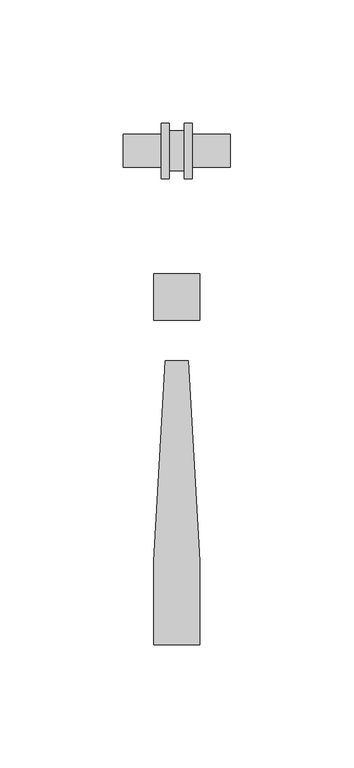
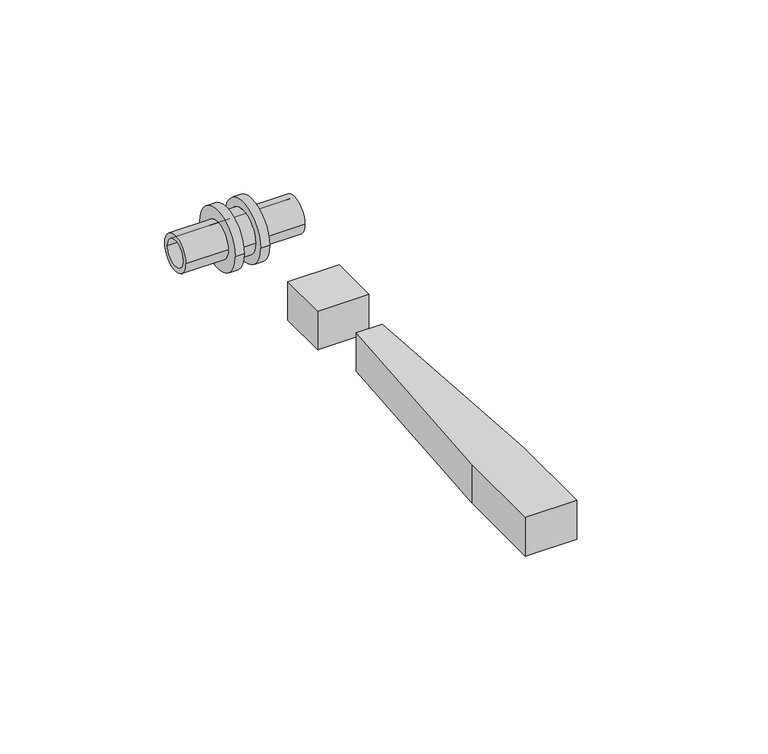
"""IFC4 building model written with IfcOpenShell, lengths in millimetres: pipe fitting geometry, RAUTITAN_Union_LX : RTI LX U DN."""

import ifcopenshell
import ifcopenshell.guid

model = None  # the IFC model being written
_history = None  # IfcOwnerHistory: only IFC2X3 demands one
_inside = {}  # id of a spatial element -> (the spatial element, [elements in it])
_under = {}  # id of a project, library or spatial element -> (it, [spatial elements below it])
_declared = {}  # id of a project -> (the project, [libraries it declares])
_typed = {}  # id of a type object -> (the type object, [elements of that type])
_made_of = {}  # id of a material, layer set ... -> (it, [elements and type objects made of it])


def new_model(schema):
    """Start an empty IFC model of exactly this schema.

    Asked for "IFC4X3", IfcOpenShell would pick the latest addendum, in which some entities
    have other attributes; the version numbers below select the first issue.
    IFC2X3 requires an IfcOwnerHistory on every rooted entity: one is made here for all.
    """
    global model, _history
    if schema == "IFC4X3":
        model = ifcopenshell.file(schema_version=(4, 3, 0, 0))
    else:
        model = ifcopenshell.file(schema=schema)
    _inside.clear()
    _under.clear()
    _declared.clear()
    _typed.clear()
    _made_of.clear()
    _history = None
    if model.schema == "IFC2X3":
        org = make("IfcOrganization", Name="unknown")
        user = make(
            "IfcPersonAndOrganization",
            ThePerson=make("IfcPerson", FamilyName="unknown"),
            TheOrganization=org,
        )
        app = make(
            "IfcApplication",
            ApplicationDeveloper=org,
            Version="unknown",
            ApplicationFullName="unknown",
            ApplicationIdentifier="unknown",
        )
        _history = make(
            "IfcOwnerHistory",
            OwningUser=user,
            OwningApplication=app,
            ChangeAction="ADDED",
            CreationDate=0,
        )
    return model


def make(cls, **values):
    """One entity of the class cls with the attributes given. An attribute that is None is left unset."""
    return model.create_entity(
        cls, **{name: value for name, value in values.items() if value is not None}
    )


def rooted(cls, **values):
    """An entity with a GlobalId (a new one), such as an element, a storey or a relation."""
    return make(cls, GlobalId=ifcopenshell.guid.new(), OwnerHistory=_history, **values)


def si_unit(unit_type, name, prefix=None):
    """IfcSIUnit, for example si_unit("LENGTHUNIT", "METRE", prefix="MILLI")."""
    return make("IfcSIUnit", UnitType=unit_type, Prefix=prefix, Name=name)


def assignment(units):
    """IfcUnitAssignment: the units of a project."""
    return None if units is None else make("IfcUnitAssignment", Units=units)


def point(xyz):
    """IfcCartesianPoint."""
    return None if xyz is None else make("IfcCartesianPoint", Coordinates=xyz)


def direction(xyz):
    """IfcDirection."""
    return None if xyz is None else make("IfcDirection", DirectionRatios=xyz)


def frame(location, z_axis=None, x_axis=None):
    """IfcAxis2Placement3D, a coordinate frame: its origin and axes. An axis left out is left unset."""
    return make(
        "IfcAxis2Placement3D",
        Location=point(location),
        Axis=direction(z_axis),
        RefDirection=direction(x_axis),
    )


def origin():
    """The frame at (0, 0, 0) with its axes left unset."""
    return frame((0.0, 0.0, 0.0))


def origin_with_axes():
    """The frame at (0, 0, 0) with the z axis (0, 0, 1) and the x axis (1, 0, 0) written out."""
    return frame((0.0, 0.0, 0.0), z_axis=(0.0, 0.0, 1.0), x_axis=(1.0, 0.0, 0.0))


def place(relative_to, where):
    """IfcLocalPlacement: puts the frame where relative to a parent placement (None: the world)."""
    return make(
        "IfcLocalPlacement", PlacementRelTo=relative_to, RelativePlacement=where
    )


def context(
    kind, dimensions, precision=None, world=None, true_north=None, identifier=None
):
    """IfcGeometricRepresentationContext, for example the 3D "Model" context."""
    return make(
        "IfcGeometricRepresentationContext",
        ContextIdentifier=identifier,
        ContextType=kind,
        CoordinateSpaceDimension=dimensions,
        Precision=precision,
        WorldCoordinateSystem=world,
        TrueNorth=true_north,
    )


def project(units=None, contexts=None):
    """IfcProject with its units and contexts."""
    return rooted(
        "IfcProject",
        Name="project",
        RepresentationContexts=contexts,
        UnitsInContext=assignment(units),
    )


def spatial(cls, under=None, at=None, **own):
    """A site, building, storey or space (cls), placed at a placement, below another one or the project."""
    s = rooted(cls, ObjectPlacement=at, **own)
    if under is not None:
        _under.setdefault(under.id(), (under, []))[1].append(s)
    return s


def polyline(points):
    """IfcPolyline through the points."""
    return make("IfcPolyline", Points=[point(p) for p in points])


def circle_curve(where, radius):
    """IfcCircle in the frame where."""
    return make("IfcCircle", Position=where, Radius=radius)


def outline(outer, holes=None, kind="AREA"):
    """IfcArbitraryClosedProfileDef: a profile drawn as a closed curve; with holes, ...WithVoids."""
    if holes is None:
        return make("IfcArbitraryClosedProfileDef", ProfileType=kind, OuterCurve=outer)
    return make(
        "IfcArbitraryProfileDefWithVoids",
        ProfileType=kind,
        OuterCurve=outer,
        InnerCurves=holes,
    )


def extrude(swept, where, along, depth):
    """IfcExtrudedAreaSolid: the profile swept, set in the frame where, extruded along a direction by depth."""
    return make(
        "IfcExtrudedAreaSolid",
        SweptArea=swept,
        Position=where,
        ExtrudedDirection=direction(along),
        Depth=depth,
    )


def shape(context_of_items, identifier, shape_type, items):
    """IfcShapeRepresentation: the items that make up one representation, for example the "Body"."""
    return make(
        "IfcShapeRepresentation",
        ContextOfItems=context_of_items,
        RepresentationIdentifier=identifier,
        RepresentationType=shape_type,
        Items=items,
    )


def source(mapping_origin, context_of_items, identifier, shape_type, items):
    """IfcRepresentationMap: a shape defined once, which mapped items show again and again."""
    return make(
        "IfcRepresentationMap",
        MappingOrigin=mapping_origin,
        MappedRepresentation=shape(context_of_items, identifier, shape_type, items),
    )


def transform(
    local_origin,
    x_axis=None,
    y_axis=None,
    z_axis=None,
    scale=None,
    scale2=None,
    scale3=None,
    uniform=True,
):
    """IfcCartesianTransformationOperator3D, or its non-uniform kind. x_axis, y_axis, z_axis: its Axis1, 2, 3."""
    if uniform:
        return make(
            "IfcCartesianTransformationOperator3D",
            Axis1=direction(x_axis),
            Axis2=direction(y_axis),
            LocalOrigin=point(local_origin),
            Scale=scale,
            Axis3=direction(z_axis),
        )
    return make(
        "IfcCartesianTransformationOperator3DnonUniform",
        Axis1=direction(x_axis),
        Axis2=direction(y_axis),
        LocalOrigin=point(local_origin),
        Scale=scale,
        Axis3=direction(z_axis),
        Scale2=scale2,
        Scale3=scale3,
    )


def mapped(mapping_source, mapping_target):
    """IfcMappedItem: shows the shape of a source again, moved by a transform."""
    return make(
        "IfcMappedItem", MappingSource=mapping_source, MappingTarget=mapping_target
    )


def made_of(thing, what):
    """Note that an element or type object is made of a material, layer set ...; save() writes the relation."""
    if what is not None:
        _made_of.setdefault(what.id(), (what, []))[1].append(thing)
    return thing


def element(
    cls,
    number,
    at=None,
    inside=None,
    cuts=None,
    type_object=None,
    material=None,
    context=None,
    identifier="Body",
    shape_type=None,
    held_by="IfcProductDefinitionShape",
    body=None,
    shapes=None,
    **own,
):
    """One element of the class cls, such as IfcWall. Its Tag is "e" and its number.

    at: its placement. inside: the storey or other place that contains it. cuts: it is an
    opening in that element (IfcRelVoidsElement). A single representation is given by context,
    identifier, shape_type and body (its items); several are given by shapes. held_by: the class
    of the entity that holds the representations. save() writes the other relations.
    """
    e = rooted(cls, Tag="e%d" % number, ObjectPlacement=at, **own)
    if body is not None:
        shapes = [shape(context, identifier, shape_type, body)]
    if shapes is not None:
        e.Representation = make(held_by, Representations=shapes)
    if inside is not None:
        _inside.setdefault(inside.id(), (inside, []))[1].append(e)
    if cuts is not None:
        rooted(
            "IfcRelVoidsElement", RelatingBuildingElement=cuts, RelatedOpeningElement=e
        )
    if type_object is not None:
        _typed.setdefault(type_object.id(), (type_object, []))[1].append(e)
    return made_of(e, material)


def aggregate(whole, parts):
    """IfcRelAggregates: a whole, such as a stair, and the parts it consists of."""
    return rooted("IfcRelAggregates", RelatingObject=whole, RelatedObjects=parts)


def save(model, path):
    """Write the relations noted so far, then the file.

    IfcRelAggregates (storeys below a building ...), IfcRelContainedInSpatialStructure (elements
    in a storey), IfcRelDefinesByType, IfcRelAssociatesMaterial and IfcRelDeclares: one each for
    every whole, place, type object, material and project.
    """
    for whole, parts in _under.values():
        aggregate(whole, parts)
    for where, things in _inside.values():
        rooted(
            "IfcRelContainedInSpatialStructure",
            RelatedElements=things,
            RelatingStructure=where,
        )
    for kind, things in _typed.values():
        rooted("IfcRelDefinesByType", RelatedObjects=things, RelatingType=kind)
    for what, things in _made_of.values():
        rooted("IfcRelAssociatesMaterial", RelatedObjects=things, RelatingMaterial=what)
    for by, libraries in _declared.values():
        rooted("IfcRelDeclares", RelatingContext=by, RelatedDefinitions=libraries)
    model.write(path)


def plane_surface(at):
    """IfcPlane: the flat surface through the origin of the frame at, square to its z axis."""
    return make("IfcPlane", Position=at)


def cylinder_surface(at, radius):
    """IfcCylindricalSurface: all points at the distance radius from the z axis of the frame at."""
    return make("IfcCylindricalSurface", Position=at, Radius=radius)


def revolved_surface(curve, axis_point, axis_direction):
    """IfcSurfaceOfRevolution: the curve turned about the line through axis_point along axis_direction."""
    return make(
        "IfcSurfaceOfRevolution",
        SweptCurve=make("IfcArbitraryOpenProfileDef", ProfileType="CURVE", Curve=curve),
        AxisPosition=make("IfcAxis1Placement", Location=point(axis_point), Axis=direction(axis_direction)),
    )


def advanced_brep(points, edges, surfaces, faces):
    """IfcAdvancedBrep: a solid bounded by faces that lie on surfaces and meet in shared edges.

    An edge is (start, end): straight between two places in points (the first is 0);
    or (start, end, curve); or (start, end, curve, False) where it runs against its curve.
    A face is (place in surfaces, loops), or (place, loops, False) where it looks against
    its surface's normal. A loop lists edges by number (the first is 1), with a minus sign
    where the edge is run from its end to its start. The first loop is the outer one.
    """
    corners = [point(p) for p in points]
    vertices = [make("IfcVertexPoint", VertexGeometry=c) for c in corners]
    made = []
    for start, end, *more in edges:
        made.append(
            make(
                "IfcEdgeCurve",
                EdgeStart=vertices[start],
                EdgeEnd=vertices[end],
                EdgeGeometry=more[0] if more else make("IfcPolyline", Points=[corners[start], corners[end]]),
                SameSense=more[1] if len(more) > 1 else True,
            )
        )
    hull = []
    for where, loops, *sense in faces:
        bounds = []
        for j, loop in enumerate(loops):
            ring = [make("IfcOrientedEdge", EdgeElement=made[abs(k) - 1], Orientation=k > 0) for k in loop]
            bounds.append(
                make(
                    "IfcFaceOuterBound" if j == 0 else "IfcFaceBound",
                    Bound=make("IfcEdgeLoop", EdgeList=ring),
                    Orientation=True,
                )
            )
        hull.append(make("IfcAdvancedFace", Bounds=bounds, FaceSurface=surfaces[where], SameSense=sense[0] if sense else True))
    return make("IfcAdvancedBrep", Outer=make("IfcClosedShell", CfsFaces=hull))


def pipe_fitting_8ed7db67(model_context):
    return source(origin(), model_context, "Body", "SolidModel", [
        advanced_brep(
        [(-21.8, 4.95, 0.0), (-21.8, -4.95, 0.0), (21.8, -4.95, 0.0), (21.8, 4.95, 0.0), (-6.3, 6.75, 0.0), (-6.3, -6.75, 0.0), (-21.8, -6.75, 0.0), (-21.8, 6.75, 0.0), (-3.0, 11.25, 0.0), (-3.0, -11.25, 0.0), (-6.3, -11.25, 0.0), (-6.3, 11.25, 0.0), (3.0, 8.05, 0.0), (3.0, -8.05, 0.0), (-3.0, -8.05, 0.0), (-3.0, 8.05, 0.0), (6.3, 11.25, 0.0), (6.3, -11.25, 0.0), (3.0, -11.25, 0.0), (3.0, 11.25, 0.0), (21.8, 6.75, 0.0), (21.8, -6.75, 0.0), (6.3, -6.75, 0.0), (6.3, 6.75, 0.0)],
        [
            (0, 1, circle_curve(frame((-21.8, 0.0, 0.0), z_axis=(-1.0, 0.0, 0.0), x_axis=(0.0, -1.0, 0.0)), 4.95)),
            (1, 2),
            (2, 3, circle_curve(frame((21.8, 0.0, 0.0), z_axis=(1.0, 0.0, 0.0), x_axis=(0.0, -1.0, 0.0)), 4.95)),
            (3, 0),
            (4, 5, circle_curve(frame((-6.3, 0.0, 0.0), z_axis=(-1.0, 0.0, 0.0), x_axis=(0.0, -1.0, 0.0)), 6.75)),
            (5, 6),
            (6, 7, circle_curve(frame((-21.8, 0.0, 0.0), z_axis=(1.0, 0.0, 0.0), x_axis=(0.0, -1.0, 0.0)), 6.75)),
            (7, 4),
            (8, 9, circle_curve(frame((-3.0, 0.0, 0.0), z_axis=(-1.0, 0.0, 0.0), x_axis=(0.0, -1.0, 0.0)), 11.25)),
            (9, 10),
            (10, 11, circle_curve(frame((-6.3, 0.0, 0.0), z_axis=(1.0, 0.0, 0.0), x_axis=(0.0, -1.0, 0.0)), 11.25)),
            (11, 8),
            (12, 13, circle_curve(frame((3.0, 0.0, 0.0), z_axis=(-1.0, 0.0, 0.0), x_axis=(0.0, -1.0, 0.0)), 8.05)),
            (13, 14),
            (14, 15, circle_curve(frame((-3.0, 0.0, 0.0), z_axis=(1.0, 0.0, 0.0), x_axis=(0.0, -1.0, 0.0)), 8.05)),
            (15, 12),
            (16, 17, circle_curve(frame((6.3, 0.0, 0.0), z_axis=(-1.0, 0.0, 0.0), x_axis=(0.0, -1.0, 0.0)), 11.25)),
            (17, 18),
            (18, 19, circle_curve(frame((3.0, 0.0, 0.0), z_axis=(1.0, 0.0, 0.0), x_axis=(0.0, -1.0, 0.0)), 11.25)),
            (19, 16),
            (20, 21, circle_curve(frame((21.8, 0.0, 0.0), z_axis=(-1.0, 0.0, 0.0), x_axis=(0.0, -1.0, 0.0)), 6.75)),
            (21, 22),
            (22, 23, circle_curve(frame((6.3, 0.0, 0.0), z_axis=(1.0, 0.0, 0.0), x_axis=(0.0, -1.0, 0.0)), 6.75)),
            (23, 20),
            (1, 0, circle_curve(frame((-21.8, 0.0, 0.0), z_axis=(-1.0, 0.0, 0.0), x_axis=(0.0, 1.0, 0.0)), 4.95)),
            (3, 2, circle_curve(frame((21.8, 0.0, 0.0), z_axis=(1.0, 0.0, 0.0), x_axis=(0.0, 1.0, 0.0)), 4.95)),
            (6, 7, circle_curve(frame((-21.8, 0.0, 0.0), z_axis=(-1.0, 0.0, 0.0), x_axis=(0.0, 1.0, 0.0)), 6.75)),
            (5, 4, circle_curve(frame((-6.3, 0.0, 0.0), z_axis=(-1.0, 0.0, 0.0), x_axis=(0.0, 1.0, 0.0)), 6.75)),
            (10, 11, circle_curve(frame((-6.3, 0.0, 0.0), z_axis=(-1.0, 0.0, 0.0), x_axis=(0.0, 1.0, 0.0)), 11.25)),
            (9, 8, circle_curve(frame((-3.0, 0.0, 0.0), z_axis=(-1.0, 0.0, 0.0), x_axis=(0.0, 1.0, 0.0)), 11.25)),
            (14, 15, circle_curve(frame((-3.0, 0.0, 0.0), z_axis=(-1.0, 0.0, 0.0), x_axis=(0.0, 1.0, 0.0)), 8.05)),
            (13, 12, circle_curve(frame((3.0, 0.0, 0.0), z_axis=(-1.0, 0.0, 0.0), x_axis=(0.0, 1.0, 0.0)), 8.05)),
            (18, 19, circle_curve(frame((3.0, 0.0, 0.0), z_axis=(-1.0, 0.0, 0.0), x_axis=(0.0, 1.0, 0.0)), 11.25)),
            (17, 16, circle_curve(frame((6.3, 0.0, 0.0), z_axis=(-1.0, 0.0, 0.0), x_axis=(0.0, 1.0, 0.0)), 11.25)),
            (22, 23, circle_curve(frame((6.3, 0.0, 0.0), z_axis=(-1.0, 0.0, 0.0), x_axis=(0.0, 1.0, 0.0)), 6.75)),
            (21, 20, circle_curve(frame((21.8, 0.0, 0.0), z_axis=(-1.0, 0.0, 0.0), x_axis=(0.0, 1.0, 0.0)), 6.75)),
        ],
        [
            revolved_surface(polyline([(21.8, -4.95, 0.0), (-21.8, -4.95, 0.0)]), (0.0, 0.0, 0.0), (1.0, 0.0, 0.0)),
            cylinder_surface(frame((0.0, 0.0, 0.0), z_axis=(1.0, 0.0, 0.0), x_axis=(0.0, -1.0, 0.0)), 6.75),
            cylinder_surface(frame((0.0, 0.0, 0.0), z_axis=(1.0, 0.0, 0.0), x_axis=(0.0, -1.0, 0.0)), 11.25),
            cylinder_surface(frame((0.0, 0.0, 0.0), z_axis=(1.0, 0.0, 0.0), x_axis=(0.0, -1.0, 0.0)), 8.05),
            revolved_surface(polyline([(21.8, 4.95, 0.0), (-21.8, 4.95, 0.0)]), (0.0, 0.0, 0.0), (1.0, 0.0, 0.0)),
            plane_surface(frame((-21.8, 0.0, 0.0), z_axis=(-1.0, 0.0, 0.0), x_axis=(0.0, 1.0, 0.0))),
            cylinder_surface(frame((0.0, 0.0, 0.0), z_axis=(1.0, 0.0, 0.0), x_axis=(0.0, 1.0, 0.0)), 6.75),
            plane_surface(frame((-6.3, 0.0, 0.0), z_axis=(-1.0, 0.0, 0.0), x_axis=(0.0, 1.0, 0.0))),
            cylinder_surface(frame((0.0, 0.0, 0.0), z_axis=(1.0, 0.0, 0.0), x_axis=(0.0, 1.0, 0.0)), 11.25),
            plane_surface(frame((-3.0, 0.0, 0.0), z_axis=(1.0, 0.0, 0.0), x_axis=(0.0, 1.0, 0.0))),
            cylinder_surface(frame((0.0, 0.0, 0.0), z_axis=(1.0, 0.0, 0.0), x_axis=(0.0, 1.0, 0.0)), 8.05),
            plane_surface(frame((3.0, 0.0, 0.0), z_axis=(-1.0, 0.0, 0.0), x_axis=(0.0, 1.0, 0.0))),
            plane_surface(frame((6.3, 0.0, 0.0), z_axis=(1.0, 0.0, 0.0), x_axis=(0.0, 1.0, 0.0))),
            plane_surface(frame((21.8, 0.0, 0.0), z_axis=(1.0, 0.0, 0.0), x_axis=(0.0, 1.0, 0.0))),
        ],
        [
            (0, [[1, 2, 3, 4]]),
            (1, [[5, 6, 7, 8]]),
            (2, [[9, 10, 11, 12]]),
            (3, [[13, 14, 15, 16]]),
            (2, [[17, 18, 19, 20]]),
            (1, [[21, 22, 23, 24]]),
            (4, [[25, -4, 26, -2]]),
            (5, [[27, -7], [-25, -1]]),
            (6, [[28, -8, -27, -6]]),
            (7, [[29, -11], [-28, -5]]),
            (8, [[30, -12, -29, -10]]),
            (9, [[-30, -9], [31, -15]]),
            (10, [[32, -16, -31, -14]]),
            (11, [[33, -19], [-32, -13]]),
            (8, [[34, -20, -33, -18]]),
            (12, [[-34, -17], [35, -23]]),
            (6, [[36, -24, -35, -22]]),
            (13, [[-36, -21], [-26, -3]]),
        ],
    ),
        extrude(outline(polyline([(4.7088895, -85.3166715), (9.4177791, -166.6553807), (9.4177791, -200.6844652), (-9.4177791, -200.6844652), (-9.4177791, -166.6553807), (-4.7088895, -85.3166715), (4.7088895, -85.3166715)])), origin_with_axes(), (0.0, 0.0, 1.0), 15.0),
        extrude(outline(polyline([(9.4177791, -50.0), (9.4177791, -68.8355582), (-9.4177791, -68.8355582), (-9.4177791, -50.0), (9.4177791, -50.0)])), origin_with_axes(), (0.0, 0.0, 1.0), 15.0),
    ])


if __name__ == "__main__":
    model = new_model("IFC4")
    model_context = context("Model", 3, world=origin())
    ifc_project = project(units=[si_unit("LENGTHUNIT", "METRE", prefix="MILLI")], contexts=[model_context])
    site = spatial("IfcSite", under=ifc_project)
    building = spatial("IfcBuilding", under=site)
    placement = place(None, origin())
    pipe_fitting_shape = pipe_fitting_8ed7db67(model_context)
    element("IfcPipeFitting", 1, ObjectType="RAUTITAN_Union_LX : RTI LX U DN", at=placement, inside=building, context=model_context, shape_type="MappedRepresentation", body=[
        mapped(pipe_fitting_shape, transform((0.0, 0.0, 0.0), x_axis=(1.0, 0.0, 0.0), y_axis=(0.0, 1.0, 0.0), z_axis=(0.0, 0.0, 1.0))),
    ])
    save(model, "model.ifc")
